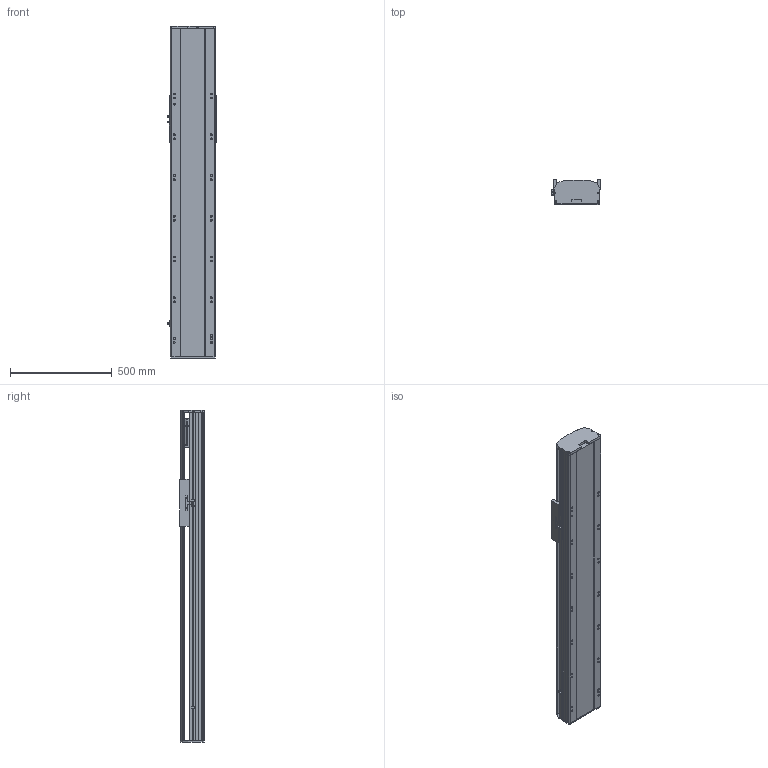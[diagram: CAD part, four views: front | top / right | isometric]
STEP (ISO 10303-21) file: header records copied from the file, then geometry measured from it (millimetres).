
FILE_DESCRIPTION (( 'STEP AP214' ), '1' );
FILE_NAME ('RTH22-XX-1000-B-M75B-C4.STEP', '2025-10-24T10:11:47', ( 'Microsoft' ), ( 'Microsoft' ), 'SwSTEP 2.0', 'SolidWorks 2018', '' );
FILE_SCHEMA (( 'AUTOMOTIVE_DESIGN' ));
Length unit declared in the file: millimetre
Products named in the file (9): N_RTH22-GY-013外置感应片^RTH22-XX-XX-B-M75B-C4; N_750W萇儂^RTH22-XX-XX-B-M75B-C4; N_RTH22-B008萇儂啣^RTH22-XX-XX-B-M75B-C4; N_RTH22-GY-001耜裔^RTH22-XX-XX-B-M75B-C4; N_RTH22-E-004-SFS25賑釱^RTH22-XX-XX-B-M75B-C4; RTH22-XX-1000-B-M75B-C4; N_RTH22-B-011B菁釱^RTH22-XX-XX-B-M75B-C4; N_OMRON EE-SX672 传感器^RTH22-XX-XX-B-M75B-C4; N_RTH22-B-007B奻裔^RTH22-XX-XX-B-M75B-C4
Assembly tree (10 placements, depth 2):
  RTH22-XX-1000-B-M75B-C4
    N_RTH22-B-011B菁釱^RTH22-XX-XX-B-M75B-C4
    N_RTH22-GY-001耜裔^RTH22-XX-XX-B-M75B-C4
    N_750W萇儂^RTH22-XX-XX-B-M75B-C4
    N_RTH22-B008萇儂啣^RTH22-XX-XX-B-M75B-C4
    N_RTH22-B-007B奻裔^RTH22-XX-XX-B-M75B-C4
    N_OMRON EE-SX672 传感器^RTH22-XX-XX-B-M75B-C4  x3
    N_RTH22-GY-013外置感应片^RTH22-XX-XX-B-M75B-C4
    N_RTH22-E-004-SFS25賑釱^RTH22-XX-XX-B-M75B-C4
Bounding box: 238.5 x 122 x 1630 mm (x, y, z)
Volume: 21956477 mm3; surface area: 2257926.3 mm2
Topology: 10 solids, 10 shells, 1533 faces, 4200 edges, 2713 vertices
Faces by surface type: plane 754, cylinder 442, bspline 279, cone 58
Entity records: 38091 total; most frequent: CARTESIAN_POINT 11845, ORIENTED_EDGE 5376, DIRECTION 5046, EDGE_CURVE 2688, VERTEX_POINT 1749, AXIS2_PLACEMENT_3D 1698, VECTOR 1650, LINE 1650
